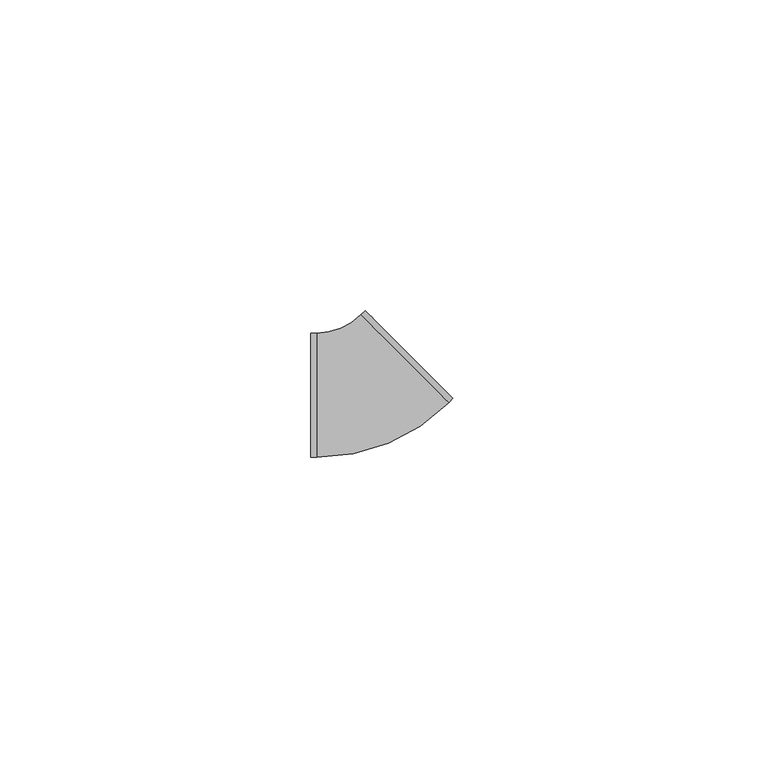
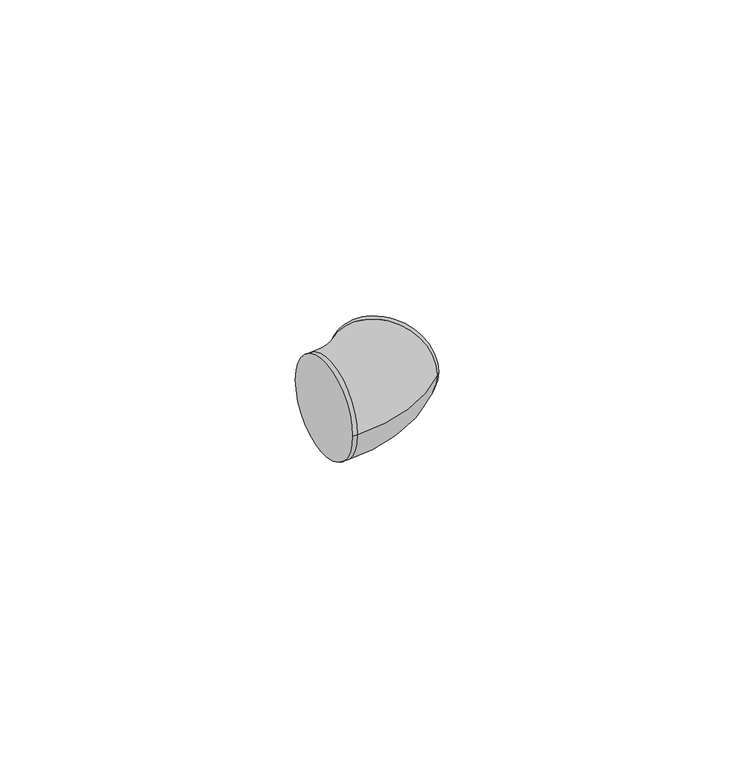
"""IFC4 building model written with IfcOpenShell, lengths in millimetres: cable carrier fitting geometry, ADSK_Поворот_Минимальный размер : Неспецифицируемый."""

import ifcopenshell
import ifcopenshell.guid

model = None  # the IFC model being written
_history = None  # IfcOwnerHistory: only IFC2X3 demands one
_inside = {}  # id of a spatial element -> (the spatial element, [elements in it])
_under = {}  # id of a project, library or spatial element -> (it, [spatial elements below it])
_declared = {}  # id of a project -> (the project, [libraries it declares])
_typed = {}  # id of a type object -> (the type object, [elements of that type])
_made_of = {}  # id of a material, layer set ... -> (it, [elements and type objects made of it])


def new_model(schema):
    """Start an empty IFC model of exactly this schema.

    Asked for "IFC4X3", IfcOpenShell would pick the latest addendum, in which some entities
    have other attributes; the version numbers below select the first issue.
    IFC2X3 requires an IfcOwnerHistory on every rooted entity: one is made here for all.
    """
    global model, _history
    if schema == "IFC4X3":
        model = ifcopenshell.file(schema_version=(4, 3, 0, 0))
    else:
        model = ifcopenshell.file(schema=schema)
    _inside.clear()
    _under.clear()
    _declared.clear()
    _typed.clear()
    _made_of.clear()
    _history = None
    if model.schema == "IFC2X3":
        org = make("IfcOrganization", Name="unknown")
        user = make(
            "IfcPersonAndOrganization",
            ThePerson=make("IfcPerson", FamilyName="unknown"),
            TheOrganization=org,
        )
        app = make(
            "IfcApplication",
            ApplicationDeveloper=org,
            Version="unknown",
            ApplicationFullName="unknown",
            ApplicationIdentifier="unknown",
        )
        _history = make(
            "IfcOwnerHistory",
            OwningUser=user,
            OwningApplication=app,
            ChangeAction="ADDED",
            CreationDate=0,
        )
    return model


def make(cls, **values):
    """One entity of the class cls with the attributes given. An attribute that is None is left unset."""
    return model.create_entity(
        cls, **{name: value for name, value in values.items() if value is not None}
    )


def rooted(cls, **values):
    """An entity with a GlobalId (a new one), such as an element, a storey or a relation."""
    return make(cls, GlobalId=ifcopenshell.guid.new(), OwnerHistory=_history, **values)


def si_unit(unit_type, name, prefix=None):
    """IfcSIUnit, for example si_unit("LENGTHUNIT", "METRE", prefix="MILLI")."""
    return make("IfcSIUnit", UnitType=unit_type, Prefix=prefix, Name=name)


def assignment(units):
    """IfcUnitAssignment: the units of a project."""
    return None if units is None else make("IfcUnitAssignment", Units=units)


def point(xyz):
    """IfcCartesianPoint."""
    return None if xyz is None else make("IfcCartesianPoint", Coordinates=xyz)


def direction(xyz):
    """IfcDirection."""
    return None if xyz is None else make("IfcDirection", DirectionRatios=xyz)


def frame(location, z_axis=None, x_axis=None):
    """IfcAxis2Placement3D, a coordinate frame: its origin and axes. An axis left out is left unset."""
    return make(
        "IfcAxis2Placement3D",
        Location=point(location),
        Axis=direction(z_axis),
        RefDirection=direction(x_axis),
    )


def origin():
    """The frame at (0, 0, 0) with its axes left unset."""
    return frame((0.0, 0.0, 0.0))


def place(relative_to, where):
    """IfcLocalPlacement: puts the frame where relative to a parent placement (None: the world)."""
    return make(
        "IfcLocalPlacement", PlacementRelTo=relative_to, RelativePlacement=where
    )


def context(
    kind, dimensions, precision=None, world=None, true_north=None, identifier=None
):
    """IfcGeometricRepresentationContext, for example the 3D "Model" context."""
    return make(
        "IfcGeometricRepresentationContext",
        ContextIdentifier=identifier,
        ContextType=kind,
        CoordinateSpaceDimension=dimensions,
        Precision=precision,
        WorldCoordinateSystem=world,
        TrueNorth=true_north,
    )


def project(units=None, contexts=None):
    """IfcProject with its units and contexts."""
    return rooted(
        "IfcProject",
        Name="project",
        RepresentationContexts=contexts,
        UnitsInContext=assignment(units),
    )


def spatial(cls, under=None, at=None, **own):
    """A site, building, storey or space (cls), placed at a placement, below another one or the project."""
    s = rooted(cls, ObjectPlacement=at, **own)
    if under is not None:
        _under.setdefault(under.id(), (under, []))[1].append(s)
    return s


def circle_curve(where, radius):
    """IfcCircle in the frame where."""
    return make("IfcCircle", Position=where, Radius=radius)


def ellipse_curve(where, semi_axis1, semi_axis2):
    """IfcEllipse in the frame where."""
    return make(
        "IfcEllipse", Position=where, SemiAxis1=semi_axis1, SemiAxis2=semi_axis2
    )


def trimmed(basis, trim1, trim2, sense, master):
    """IfcTrimmedCurve: the piece of a basis curve between two trims."""
    return make(
        "IfcTrimmedCurve",
        BasisCurve=basis,
        Trim1=trim1,
        Trim2=trim2,
        SenseAgreement=sense,
        MasterRepresentation=master,
    )


def shape(context_of_items, identifier, shape_type, items):
    """IfcShapeRepresentation: the items that make up one representation, for example the "Body"."""
    return make(
        "IfcShapeRepresentation",
        ContextOfItems=context_of_items,
        RepresentationIdentifier=identifier,
        RepresentationType=shape_type,
        Items=items,
    )


def source(mapping_origin, context_of_items, identifier, shape_type, items):
    """IfcRepresentationMap: a shape defined once, which mapped items show again and again."""
    return make(
        "IfcRepresentationMap",
        MappingOrigin=mapping_origin,
        MappedRepresentation=shape(context_of_items, identifier, shape_type, items),
    )


def transform(
    local_origin,
    x_axis=None,
    y_axis=None,
    z_axis=None,
    scale=None,
    scale2=None,
    scale3=None,
    uniform=True,
):
    """IfcCartesianTransformationOperator3D, or its non-uniform kind. x_axis, y_axis, z_axis: its Axis1, 2, 3."""
    if uniform:
        return make(
            "IfcCartesianTransformationOperator3D",
            Axis1=direction(x_axis),
            Axis2=direction(y_axis),
            LocalOrigin=point(local_origin),
            Scale=scale,
            Axis3=direction(z_axis),
        )
    return make(
        "IfcCartesianTransformationOperator3DnonUniform",
        Axis1=direction(x_axis),
        Axis2=direction(y_axis),
        LocalOrigin=point(local_origin),
        Scale=scale,
        Axis3=direction(z_axis),
        Scale2=scale2,
        Scale3=scale3,
    )


def mapped(mapping_source, mapping_target):
    """IfcMappedItem: shows the shape of a source again, moved by a transform."""
    return make(
        "IfcMappedItem", MappingSource=mapping_source, MappingTarget=mapping_target
    )


def made_of(thing, what):
    """Note that an element or type object is made of a material, layer set ...; save() writes the relation."""
    if what is not None:
        _made_of.setdefault(what.id(), (what, []))[1].append(thing)
    return thing


def element(
    cls,
    number,
    at=None,
    inside=None,
    cuts=None,
    type_object=None,
    material=None,
    context=None,
    identifier="Body",
    shape_type=None,
    held_by="IfcProductDefinitionShape",
    body=None,
    shapes=None,
    **own,
):
    """One element of the class cls, such as IfcWall. Its Tag is "e" and its number.

    at: its placement. inside: the storey or other place that contains it. cuts: it is an
    opening in that element (IfcRelVoidsElement). A single representation is given by context,
    identifier, shape_type and body (its items); several are given by shapes. held_by: the class
    of the entity that holds the representations. save() writes the other relations.
    """
    e = rooted(cls, Tag="e%d" % number, ObjectPlacement=at, **own)
    if body is not None:
        shapes = [shape(context, identifier, shape_type, body)]
    if shapes is not None:
        e.Representation = make(held_by, Representations=shapes)
    if inside is not None:
        _inside.setdefault(inside.id(), (inside, []))[1].append(e)
    if cuts is not None:
        rooted(
            "IfcRelVoidsElement", RelatingBuildingElement=cuts, RelatedOpeningElement=e
        )
    if type_object is not None:
        _typed.setdefault(type_object.id(), (type_object, []))[1].append(e)
    return made_of(e, material)


def aggregate(whole, parts):
    """IfcRelAggregates: a whole, such as a stair, and the parts it consists of."""
    return rooted("IfcRelAggregates", RelatingObject=whole, RelatedObjects=parts)


def save(model, path):
    """Write the relations noted so far, then the file.

    IfcRelAggregates (storeys below a building ...), IfcRelContainedInSpatialStructure (elements
    in a storey), IfcRelDefinesByType, IfcRelAssociatesMaterial and IfcRelDeclares: one each for
    every whole, place, type object, material and project.
    """
    for whole, parts in _under.values():
        aggregate(whole, parts)
    for where, things in _inside.values():
        rooted(
            "IfcRelContainedInSpatialStructure",
            RelatedElements=things,
            RelatingStructure=where,
        )
    for kind, things in _typed.values():
        rooted("IfcRelDefinesByType", RelatedObjects=things, RelatingType=kind)
    for what, things in _made_of.values():
        rooted("IfcRelAssociatesMaterial", RelatedObjects=things, RelatingMaterial=what)
    for by, libraries in _declared.values():
        rooted("IfcRelDeclares", RelatingContext=by, RelatedDefinitions=libraries)
    model.write(path)


def plane_surface(at):
    """IfcPlane: the flat surface through the origin of the frame at, square to its z axis."""
    return make("IfcPlane", Position=at)


def cylinder_surface(at, radius):
    """IfcCylindricalSurface: all points at the distance radius from the z axis of the frame at."""
    return make("IfcCylindricalSurface", Position=at, Radius=radius)


def revolved_surface(curve, axis_point, axis_direction):
    """IfcSurfaceOfRevolution: the curve turned about the line through axis_point along axis_direction."""
    return make(
        "IfcSurfaceOfRevolution",
        SweptCurve=make("IfcArbitraryOpenProfileDef", ProfileType="CURVE", Curve=curve),
        AxisPosition=make("IfcAxis1Placement", Location=point(axis_point), Axis=direction(axis_direction)),
    )


def advanced_brep(points, edges, surfaces, faces):
    """IfcAdvancedBrep: a solid bounded by faces that lie on surfaces and meet in shared edges.

    An edge is (start, end): straight between two places in points (the first is 0);
    or (start, end, curve); or (start, end, curve, False) where it runs against its curve.
    A face is (place in surfaces, loops), or (place, loops, False) where it looks against
    its surface's normal. A loop lists edges by number (the first is 1), with a minus sign
    where the edge is run from its end to its start. The first loop is the outer one.
    """
    corners = [point(p) for p in points]
    vertices = [make("IfcVertexPoint", VertexGeometry=c) for c in corners]
    made = []
    for start, end, *more in edges:
        made.append(
            make(
                "IfcEdgeCurve",
                EdgeStart=vertices[start],
                EdgeEnd=vertices[end],
                EdgeGeometry=more[0] if more else make("IfcPolyline", Points=[corners[start], corners[end]]),
                SameSense=more[1] if len(more) > 1 else True,
            )
        )
    hull = []
    for where, loops, *sense in faces:
        bounds = []
        for j, loop in enumerate(loops):
            ring = [make("IfcOrientedEdge", EdgeElement=made[abs(k) - 1], Orientation=k > 0) for k in loop]
            bounds.append(
                make(
                    "IfcFaceOuterBound" if j == 0 else "IfcFaceBound",
                    Bound=make("IfcEdgeLoop", EdgeList=ring),
                    Orientation=True,
                )
            )
        hull.append(make("IfcAdvancedFace", Bounds=bounds, FaceSurface=surfaces[where], SameSense=sense[0] if sense else True))
    return make("IfcAdvancedBrep", Outer=make("IfcClosedShell", CfsFaces=hull))


def cable_carrier_fitting_8122f9af(model_context):
    return source(origin(), model_context, "Body", "AdvancedBrep", [
        advanced_brep(
        [(-9.2842712, -10.0, 0.0), (-9.2842712, 10.0, 0.0), (-8.2842712, -10.0, 0.0), (-8.2842712, 10.0, 0.0), (-1.2132034, 12.9289322, 0.0), (12.9289322, -1.2132034, 0.0), (13.636039, -0.5060967, 0.0), (-0.5060967, 13.636039, 0.0)],
        [
            (0, 1, circle_curve(frame((-9.2842712, 0.0, 0.0), z_axis=(-1.0, -4.92260399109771e-12, 0.0), x_axis=(-4.92260399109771e-12, 1.0, 0.0)), 10.0)),
            (1, 0, circle_curve(frame((-9.2842712, 0.0, 0.0), z_axis=(-1.0, -4.92260399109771e-12, 0.0), x_axis=(-4.92260399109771e-12, 1.0, 0.0)), 10.0)),
            (0, 2),
            (2, 3, circle_curve(frame((-8.2842712, 0.0, 0.0), z_axis=(-1.0, -4.92260399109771e-12, 0.0), x_axis=(-4.92260399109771e-12, 1.0, 0.0)), 10.0)),
            (3, 1),
            (3, 2, circle_curve(frame((-8.2842712, 0.0, 0.0), z_axis=(-1.0, -4.92260399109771e-12, 0.0), x_axis=(-4.92260399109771e-12, 1.0, 0.0)), 10.0)),
            (4, 3, circle_curve(frame((-8.2842712, 20.0, 0.0), z_axis=(0.0, 0.0, -1.0), x_axis=(0.0, -1.0, 0.0)), 10.0)),
            (2, 5, circle_curve(frame((-8.2842712, 20.0, 0.0), z_axis=(0.0, 0.0, 1.0), x_axis=(0.0, -1.0, 0.0)), 30.0)),
            (5, 4, circle_curve(frame((5.8578644, 5.8578644, 0.0), z_axis=(-0.7071067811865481, -0.7071067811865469, 0.0), x_axis=(-0.7071067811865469, 0.7071067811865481, 0.0)), 10.0)),
            (4, 5, circle_curve(frame((5.8578644, 5.8578644, 0.0), z_axis=(-0.707106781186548, -0.707106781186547, 0.0), x_axis=(-0.707106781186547, 0.707106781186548, 0.0)), 10.0)),
            (6, 7, circle_curve(frame((6.5649712, 6.5649712, 0.0), z_axis=(0.7071067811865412, 0.7071067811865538, 0.0), x_axis=(-0.7071067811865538, 0.7071067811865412, 0.0)), 10.0)),
            (7, 6, circle_curve(frame((6.5649712, 6.5649712, 0.0), z_axis=(0.7071067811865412, 0.7071067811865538, 0.0), x_axis=(-0.7071067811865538, 0.7071067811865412, 0.0)), 10.0)),
            (5, 6),
            (7, 4),
        ],
        [
            plane_surface(frame((-9.2842712, 0.0, 0.0), z_axis=(-1.0, -4.92260399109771e-12, 0.0), x_axis=(0.0, 0.0, 1.0))),
            cylinder_surface(frame((-9.2842712, 0.0, 0.0), z_axis=(-1.0, -4.92260399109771e-12, 0.0), x_axis=(-4.92260399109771e-12, 1.0, 0.0)), 10.0),
            revolved_surface(trimmed(ellipse_curve(frame((-8.2842712, 0.0, 0.0), z_axis=(-1.0, 0.0, 0.0), x_axis=(0.0, 1.0, 0.0)), 10.0, 10.0), [point((-8.2842712, -10.0, 0.0))], [point((-8.2842712, 10.0, 0.0))], True, "CARTESIAN"), (-8.2842712, 20.0, 0.0), (0.0, 0.0, 1.0)),
            revolved_surface(trimmed(ellipse_curve(frame((-8.2842712, 0.0, 0.0), z_axis=(-1.0, 0.0, 0.0), x_axis=(0.0, 1.0, 0.0)), 10.0, 10.0), [point((-8.2842712, 10.0, 0.0))], [point((-8.2842712, -10.0, 0.0))], True, "CARTESIAN"), (-8.2842712, 20.0, 0.0), (0.0, 0.0, 1.0)),
            plane_surface(frame((6.5649712, 6.5649712, 0.0), z_axis=(0.7071067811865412, 0.7071067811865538, 0.0), x_axis=(0.0, 0.0, 1.0))),
            cylinder_surface(frame((5.8578644, 5.8578644, 0.0), z_axis=(-0.7071067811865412, -0.7071067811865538, 0.0), x_axis=(-0.7071067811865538, 0.7071067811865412, 0.0)), 10.0),
        ],
        [
            (0, [[1, 2]]),
            (1, [[-1, 3, 4, 5]]),
            (1, [[-2, -5, 6, -3]]),
            (2, [[7, -4, 8, 9]]),
            (3, [[-8, -6, -7, 10]]),
            (4, [[11, 12]]),
            (5, [[-9, 13, -12, 14]]),
            (5, [[-10, -14, -11, -13]]),
        ],
    ),
    ])


if __name__ == "__main__":
    model = new_model("IFC4")
    model_context = context("Model", 3, world=origin())
    ifc_project = project(units=[si_unit("LENGTHUNIT", "METRE", prefix="MILLI")], contexts=[model_context])
    site = spatial("IfcSite", under=ifc_project)
    building = spatial("IfcBuilding", under=site)
    placement = place(None, origin())
    cable_carrier_fitting_shape = cable_carrier_fitting_8122f9af(model_context)
    element("IfcCableCarrierFitting", 1, ObjectType="ADSK_Поворот_Минимальный размер : Неспецифицируемый", at=placement, inside=building, context=model_context, shape_type="MappedRepresentation", body=[
        mapped(cable_carrier_fitting_shape, transform((0.0, 0.0, 0.0), x_axis=(1.0, 0.0, 0.0), y_axis=(0.0, 1.0, 0.0), z_axis=(0.0, 0.0, 1.0))),
    ])
    save(model, "model.ifc")
